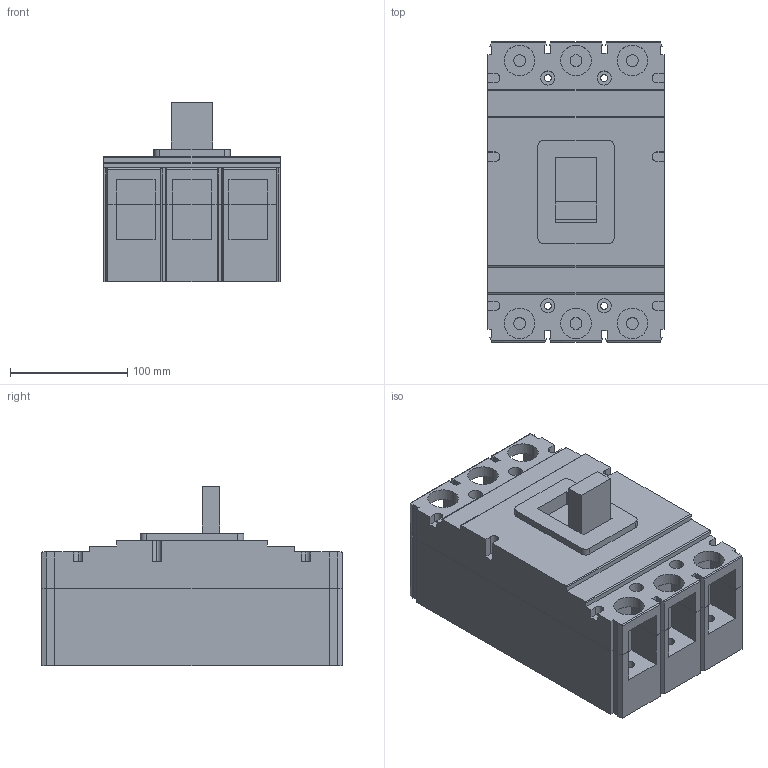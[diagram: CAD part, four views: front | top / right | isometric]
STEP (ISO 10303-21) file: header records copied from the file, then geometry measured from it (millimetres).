
FILE_DESCRIPTION (( 'STEP AP203' ), '1' );
FILE_NAME ('400M-3P剿繚ん.STEP', '2019-04-24T08:31:38', ( 'User' ), ( 'china' ), 'SwSTEP 2.0', 'SolidWorks 2011', '' );
FILE_SCHEMA (( 'CONFIG_CONTROL_DESIGN' ));
Length unit declared in the file: millimetre
Products named in the file (1): 400M-3P剿繚ん
Bounding box: 150 x 256 x 153 mm (x, y, z)
Volume: 3568219.7 mm3; surface area: 291224.1 mm2
Topology: 2 solids, 2 shells, 299 faces, 827 edges, 550 vertices
Faces by surface type: plane 216, cylinder 83
Entity records: 9614 total; most frequent: CARTESIAN_POINT 1713, ORIENTED_EDGE 1654, DIRECTION 1569, EDGE_CURVE 827, VECTOR 661, LINE 661, VERTEX_POINT 550, AXIS2_PLACEMENT_3D 454
